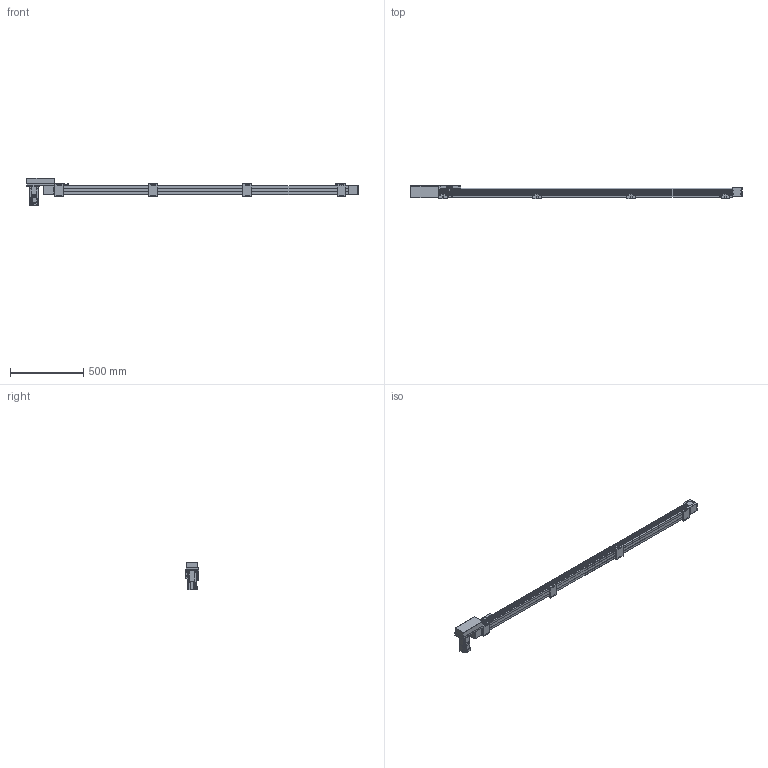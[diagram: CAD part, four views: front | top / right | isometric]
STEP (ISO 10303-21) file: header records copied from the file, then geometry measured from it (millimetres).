
FILE_DESCRIPTION(/* description */ ('STEP AP214'),/* implementation_level */ '2;1');
FILE_NAME(/* name */ 'SK60-P13-S1850-R-T40-C1-N(0)',/* time_stamp */ '2023-04-06T04:28:02+02:00',/* author */ ('License CC BY-ND 4.0'),/* organization */ ('CADENAS'),/* preprocessor_version */ 'ST-DEVELOPER v19.3',/* originating_system */ 'PARTsolutions',/* authorisation */ ' ');
FILE_SCHEMA (('AUTOMOTIVE_DESIGN {1 0 10303 214 3 1 1}'));
Length unit declared in the file: millimetre
Products named in the file (10): SK60-P13-S1850-R-T40-C1-N(0); PSC140-sensor; SK60-S450_seat; SK60-S450-BL-C1_slider; SK60_body3; SK60_body6; SK60-BL_body2; T40-p1; SK60-R_fb; SK60-S1850-R-C1_body
Assembly tree (18 placements, depth 2):
  SK60-P13-S1850-R-T40-C1-N(0)
    PSC140-sensor  x3
    SK60-S450_seat  x4
    SK60-S450-BL-C1_slider
    SK60_body3  x3
    SK60_body6  x2
    SK60-BL_body2  x2
    T40-p1
    SK60-R_fb
    SK60-S1850-R-C1_body
Bounding box: 2270.5 x 90 x 189.7 mm (x, y, z)
Volume: 8504400.6 mm3; surface area: 1019682.6 mm2
Topology: 18 solids, 18 shells, 898 faces, 2244 edges, 1477 vertices
Faces by surface type: plane 572, cylinder 294, cone 30, torus 2
Full cylindrical faces by diameter (mm): 2.8 x3, 3.3 x4, 4 x2, 4.5 x30, 4.6 x3, 4.917 x24, 5 x6, 5.478 x4, 5.5 x27, 6.5 x8, 7 x2, 8 x4, 8.5 x4, 9.988 x4, 10 x16, 14 x1, 47 x3, 50 x2
Entity records: 18671 total; most frequent: DIRECTION 3188, CARTESIAN_POINT 3152, ORIENTED_EDGE 2940, EDGE_CURVE 1470, AXIS2_PLACEMENT_3D 1070, LINE 1048, VECTOR 1048, VERTEX_POINT 1034
